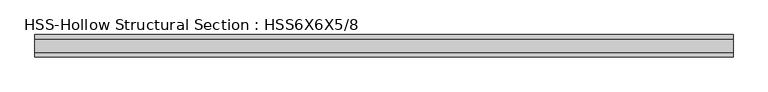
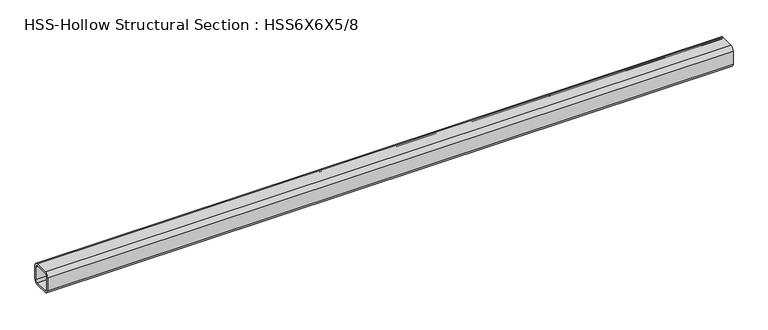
"""IFC4 building model written with IfcOpenShell, lengths in millimetres: beam geometry, HSS-Hollow Structural Section : HSS6X6X5/8."""

from ifc_helpers import new_model, si_unit, point, frame, frame_2d, origin, place, context, project, spatial, polyline, circle_curve, trimmed, segment, composite_curve, outline, extrude, source, transform, mapped, element, save


def hss_hollow_structural_section_hss6x6x5_8_0efef777(model_context):
    return source(origin(), model_context, "Body", "SweptSolid", [
        extrude(outline(composite_curve([segment(polyline([(76.2, 46.6852), (76.2, -46.6852)]), True, "CONTINUOUS"), segment(trimmed(circle_curve(frame_2d((46.6852, -46.6852)), 29.5148), [point((76.2, -46.6852))], [point((46.6852, -76.2))], False, "CARTESIAN"), True, "CONTINUOUS"), segment(polyline([(46.6852, -76.2), (-46.6852, -76.2)]), True, "CONTINUOUS"), segment(trimmed(circle_curve(frame_2d((-46.6852, -46.6852)), 29.5148), [point((-46.6852, -76.2))], [point((-76.2, -46.6852))], False, "CARTESIAN"), True, "CONTINUOUS"), segment(polyline([(-76.2, -46.6852), (-76.2, 46.6852)]), True, "CONTINUOUS"), segment(trimmed(circle_curve(frame_2d((-46.6852, 46.6852)), 29.5148), [point((-76.2, 46.6852))], [point((-46.6852, 76.2))], False, "CARTESIAN"), True, "CONTINUOUS"), segment(polyline([(-46.6852, 76.2), (46.6852, 76.2)]), True, "CONTINUOUS"), segment(trimmed(circle_curve(frame_2d((46.6852, 46.6852)), 29.5148), [point((46.6852, 76.2))], [point((76.2, 46.6852))], False, "CARTESIAN"), True, "CONTINUOUS")], self_intersect=False), holes=[composite_curve([segment(trimmed(circle_curve(frame_2d((-46.6852, 46.6852)), 14.7574), [point((-46.6852, 61.4426))], [point((-61.4426, 46.6852))], True, "CARTESIAN"), True, "CONTINUOUS"), segment(polyline([(-61.4426, 46.6852), (-61.4426, -46.6852)]), True, "CONTINUOUS"), segment(trimmed(circle_curve(frame_2d((-46.6852, -46.6852)), 14.7574), [point((-61.4426, -46.6852))], [point((-46.6852, -61.4426))], True, "CARTESIAN"), True, "CONTINUOUS"), segment(polyline([(-46.6852, -61.4426), (46.6852, -61.4426)]), True, "CONTINUOUS"), segment(trimmed(circle_curve(frame_2d((46.6852, -46.6852)), 14.7574), [point((46.6852, -61.4426))], [point((61.4426, -46.6852))], True, "CARTESIAN"), True, "CONTINUOUS"), segment(polyline([(61.4426, -46.6852), (61.4426, 46.6852)]), True, "CONTINUOUS"), segment(trimmed(circle_curve(frame_2d((46.6852, 46.6852)), 14.7574), [point((61.4426, 46.6852))], [point((46.6852, 61.4426))], True, "CARTESIAN"), True, "CONTINUOUS"), segment(polyline([(46.6852, 61.4426), (-46.6852, 61.4426)]), True, "CONTINUOUS")], self_intersect=False)]), frame((-2349.5, 0.0, 0.0), z_axis=(1.0, 0.0, 0.0), x_axis=(0.0, 1.0, 0.0)), (0.0, 0.0, 1.0), 4787.9),
    ])


if __name__ == "__main__":
    model = new_model("IFC4")
    model_context = context("Model", 3, world=origin())
    ifc_project = project(units=[si_unit("LENGTHUNIT", "METRE", prefix="MILLI")], contexts=[model_context])
    site = spatial("IfcSite", under=ifc_project)
    building = spatial("IfcBuilding", under=site)
    placement = place(None, origin())
    hss_hollow_structural_section_hss6x6x5_8_shape = hss_hollow_structural_section_hss6x6x5_8_0efef777(model_context)
    element("IfcBeam", 1, ObjectType="HSS-Hollow Structural Section : HSS6X6X5/8", at=placement, inside=building, context=model_context, shape_type="MappedRepresentation", body=[
        mapped(hss_hollow_structural_section_hss6x6x5_8_shape, transform((0.0, 0.0, 0.0), x_axis=(1.0, 0.0, 0.0), y_axis=(0.0, 1.0, 0.0), z_axis=(0.0, 0.0, 1.0))),
    ])
    save(model, "model.ifc")
